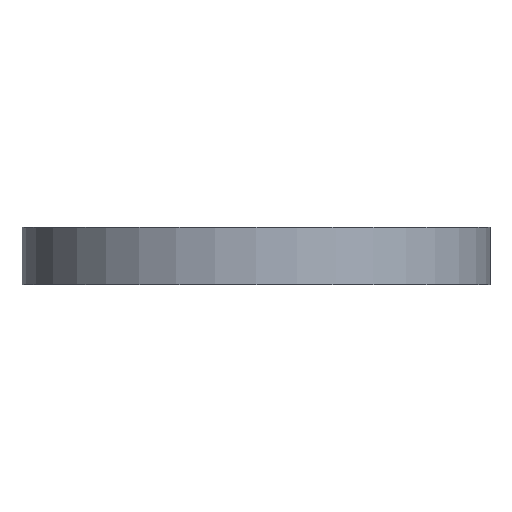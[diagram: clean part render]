
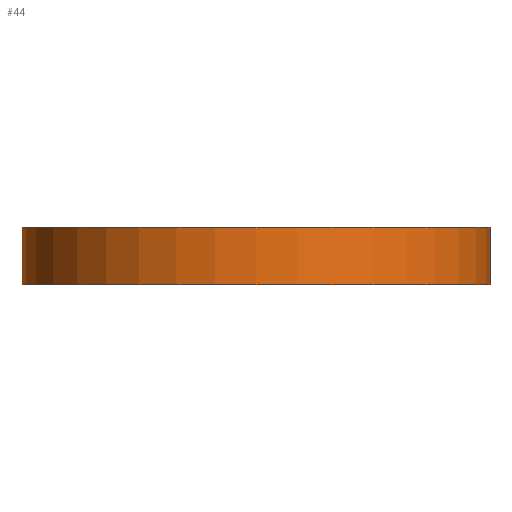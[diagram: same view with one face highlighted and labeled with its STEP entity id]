
A CAD part, front view. The second image highlights one B-rep face of the part: STEP entity #44.
In plain terms, the highlighted cylindrical face has radius 20.5 mm (diameter 41 mm), a full revolution.
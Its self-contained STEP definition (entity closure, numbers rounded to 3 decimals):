
#44=ADVANCED_FACE('',(#50,#51),#48,.T.);
#48=CYLINDRICAL_SURFACE('',#89,20.5);
#50=FACE_BOUND('',#58,.T.);
#51=FACE_BOUND('',#59,.T.);
#58=EDGE_LOOP('',(#66));
#59=EDGE_LOOP('',(#67));
#66=ORIENTED_EDGE('',*,*,#78,.F.);
#67=ORIENTED_EDGE('',*,*,#79,.T.);
#74=VERTEX_POINT('',#115);
#75=VERTEX_POINT('',#117);
#78=EDGE_CURVE('',#74,#74,#82,.T.);
#79=EDGE_CURVE('',#75,#75,#83,.T.);
#82=CIRCLE('',#87,20.5);
#83=CIRCLE('',#88,20.5);
#87=AXIS2_PLACEMENT_3D('',#114,#97,#98);
#88=AXIS2_PLACEMENT_3D('',#116,#99,#100);
#89=AXIS2_PLACEMENT_3D('',#118,#101,#102);
#97=DIRECTION('',(0.,0.,1.));
#98=DIRECTION('',(1.,0.,0.));
#99=DIRECTION('',(0.,0.,1.));
#100=DIRECTION('',(1.,0.,0.));
#101=DIRECTION('',(0.,0.,-1.));
#102=DIRECTION('',(-1.,0.,0.));
#114=CARTESIAN_POINT('',(0.,0.,5.));
#115=CARTESIAN_POINT('',(20.5,0.,5.));
#116=CARTESIAN_POINT('',(0.,0.,0.));
#117=CARTESIAN_POINT('',(20.5,0.,0.));
#118=CARTESIAN_POINT('',(0.,0.,5.));
